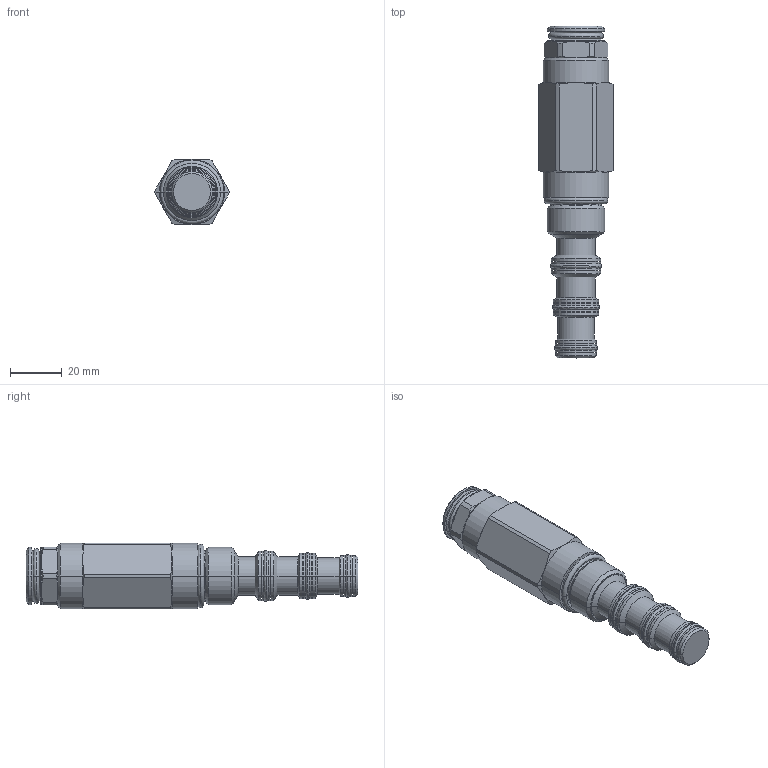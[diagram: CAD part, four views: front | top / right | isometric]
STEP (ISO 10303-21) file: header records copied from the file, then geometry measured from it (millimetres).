
FILE_DESCRIPTION((''),'2;1');
FILE_NAME('5266401_SW0002','2009-02-09T',('jcs'),(''),'PRO/ENGINEER BY PARAMETRIC TECHNOLOGY CORPORATION, 2008010','PRO/ENGINEER BY PARAMETRIC TECHNOLOGY CORPORATION, 2008010','');
FILE_SCHEMA(('CONFIG_CONTROL_DESIGN'));
Length unit declared in the file: inch
Products named in the file (1): 5266401_SW0002
Bounding box: 28.57 x 128.12 x 25.4 mm (x, y, z)
Volume: 48456.9 mm3; surface area: 13146.9 mm2
Topology: 5 solids, 5 shells, 234 faces, 500 edges, 290 vertices
Faces by surface type: cylinder 78, plane 48, cone 42, revolution 40, torus 26
Entity records: 7092 total; most frequent: CARTESIAN_POINT 1930, DIRECTION 1138, ORIENTED_EDGE 1000, EDGE_CURVE 500, AXIS2_PLACEMENT_3D 480, VERTEX_POINT 290, CIRCLE 286, EDGE_LOOP 256
